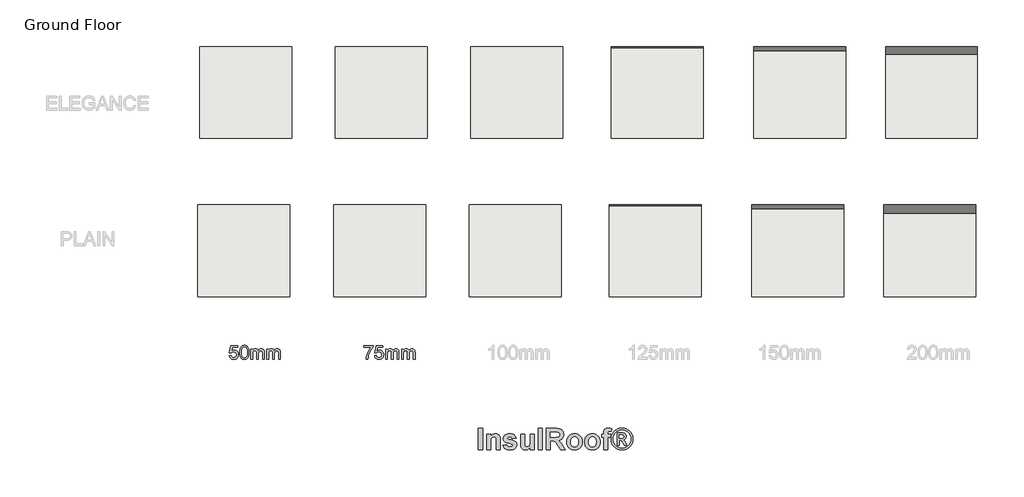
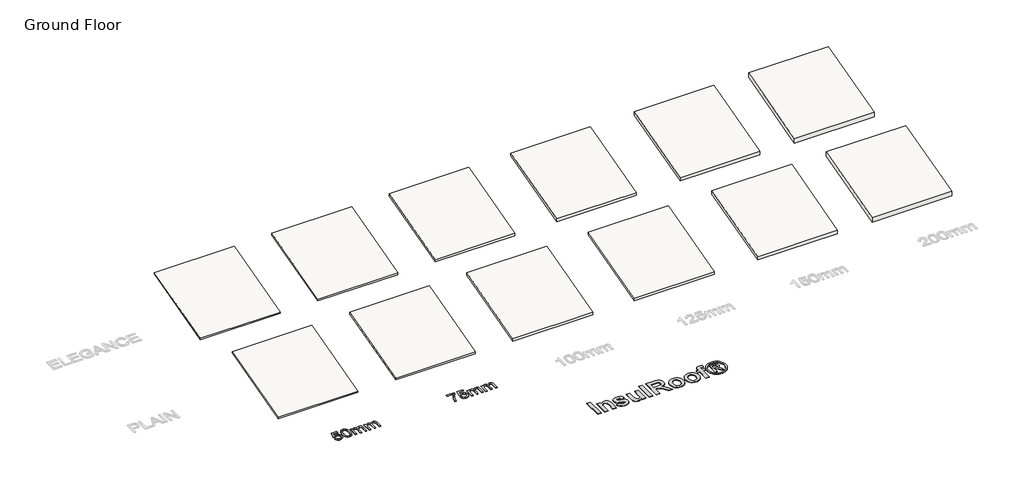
# One storey, part 1 of 2: 12 roofs, 3 proxies.
"""IFC4 building model written with IfcOpenShell, lengths in millimetres."""

from ifc_helpers import new_model, si_unit, frame, origin, origin_with_axes, place, context, project, spatial, polyline, outline, extrude, element, save

model = new_model("IFC4")

# Units and contexts
model_context = context("Model", 3, world=origin())
ifc_project = project(units=[si_unit("LENGTHUNIT", "METRE", prefix="MILLI")], contexts=[model_context])

# Site, building, storey
site = spatial("IfcSite", under=ifc_project)
building = spatial("IfcBuilding", under=site)
storey = spatial("IfcBuildingStorey", under=building, Name="Ground Floor", Elevation=0.0)

# Proxies
placement = place(None, origin())
element("IfcBuildingElementProxy", 1, Name="600mm Arial", ObjectType="600mm Arial", at=placement, inside=storey, context=model_context, shape_type="SweptSolid", body=[
    extrude(outline(polyline([(-8104.9680038, -2325.4851257), (-8029.6257712, -2316.0673466), (-8023.9971767, -2340.2877775), (-8015.7934082, -2361.2984379), (-8005.0144657, -2379.099328), (-7991.6603493, -2393.6904476), (-7975.7586501, -2405.0534027), (-7957.3369592, -2413.1697993), (-7936.3952766, -2418.0396372), (-7912.9336023, -2419.6629165), (-7884.2388067, -2417.4050407), (-7858.9285255, -2410.6314135), (-7837.0027585, -2399.3420348), (-7818.461506, -2383.5369045), (-7803.718635, -2363.9977721), (-7793.1880129, -2341.5063866), (-7786.8696396, -2316.0627481), (-7784.7635152, -2287.6668566), (-7786.7362824, -2260.8298651), (-7792.654584, -2236.9727177), (-7802.51842, -2216.0954144), (-7816.3277904, -2198.1979554), (-7834.1286805, -2183.8413605), (-7855.9670754, -2173.5866499), (-7881.8429752, -2167.4338235), (-7911.75638, -2165.3828814), (-7948.3054562, -2168.6570312), (-7977.9015627, -2178.4794804), (-8001.5379809, -2193.525854), (-8020.2079921, -2212.4717768), (-8095.5502248, -2203.0539977), (-8029.6257712, -1892.2672882), (-7737.6746198, -1892.2672882), (-7737.6746198, -1967.6095208), (-7968.7045128, -1967.6095208), (-8000.9309756, -2133.597877), (-7974.3423044, -2114.5415897), (-7947.1098397, -2100.9299559), (-7919.2335815, -2092.7629756), (-7890.7135298, -2090.0406488), (-7854.0218993, -2093.4159661), (-7820.3193101, -2103.541918), (-7789.605762, -2120.4185045), (-7761.8812551, -2144.0457257), (-7738.9300172, -2172.9796446), (-7722.5362757, -2205.7763245), (-7712.7000309, -2242.4357653), (-7709.4212826, -2282.9579671), (-7712.3735356, -2321.9902468), (-7721.2302947, -2358.3001997), (-7735.9915597, -2391.8878258), (-7756.6573308, -2422.7531252), (-7787.9640886, -2454.3633857), (-7824.4947707, -2476.9421431), (-7866.2493772, -2490.4893976), (-7913.2279079, -2495.0051491), (-7952.1084363, -2492.1034798), (-7987.2273713, -2483.3984721), (-8018.5847128, -2468.890126), (-8046.180461, -2448.5784413), (-8069.140896, -2423.4750936), (-8086.5922982, -2394.5917585), (-8098.5346674, -2361.9284359), (-8104.9680038, -2325.4851257)])), origin_with_axes(), (0.0, 0.0, 1.0), 20.0),
    extrude(outline(polyline([(-7643.4968291, -2189.0744819), (-7637.9602051, -2092.5974287), (-7631.039425, -2051.6843523), (-7621.350333, -2015.6549094), (-7608.9343156, -1984.2147944), (-7593.8327597, -1957.0697016), (-7576.0456653, -1934.2196312), (-7555.5730322, -1915.6645831), (-7532.3458828, -1901.3079882), (-7506.295239, -1891.0532776), (-7477.4211009, -1884.9004512), (-7445.7234685, -1882.8495091), (-7399.2967607, -1887.7055514), (-7357.7260952, -1902.2736785), (-7322.9612467, -1925.983673), (-7296.9519896, -1958.2653181), (-7277.3070911, -1998.8427022), (-7261.6353181, -2047.4399138), (-7251.3714104, -2109.1521184), (-7247.9501079, -2189.0744819), (-7253.4315496, -2284.9997121), (-7260.2833518, -2325.7748328), (-7269.8758748, -2361.7582904), (-7282.1953231, -2393.212201), (-7297.2279011, -2420.3986805), (-7314.9736089, -2443.3177288), (-7335.4324463, -2461.9693459), (-7358.6871869, -2476.4225098), (-7384.8206042, -2486.7461983), (-7413.832698, -2492.9404114), (-7445.7234685, -2495.0051491), (-7487.2205575, -2491.4182996), (-7524.008757, -2480.6577513), (-7556.088067, -2462.723504), (-7583.4584875, -2437.6155578), (-7609.7252619, -2392.2281167), (-7628.4872437, -2335.675457), (-7639.7444327, -2267.9575787), (-7643.4968291, -2189.0744819)]), holes=[polyline([(-7568.1545965, -2188.9273291), (-7565.9473045, -2254.4241198), (-7559.3254286, -2307.4405138), (-7548.2889687, -2347.9765112), (-7532.8379249, -2376.0321118), (-7514.1495196, -2395.1205889), (-7493.400975, -2408.7552153), (-7470.5922913, -2416.9359912), (-7445.7234685, -2419.6629165), (-7420.8546456, -2416.9267941), (-7398.0459619, -2408.7184271), (-7377.2974174, -2395.0378154), (-7358.609012, -2375.884959), (-7343.1579682, -2347.7833731), (-7332.1215084, -2307.2565728), (-7325.4996324, -2254.3045582), (-7323.2923405, -2188.9273291), (-7325.426056, -2125.1641823), (-7331.8272028, -2073.0812888), (-7342.4957806, -2032.6786487), (-7357.4317896, -2003.9562619), (-7375.8074953, -1983.9342843), (-7396.7951631, -1969.6328718), (-7420.3947931, -1961.0520242), (-7446.6063853, -1958.1917417), (-7471.3464494, -1960.7117334), (-7493.768857, -1968.2717084), (-7513.8736081, -1980.8716667), (-7531.6607025, -1998.5116084), (-7547.6267811, -2029.781578), (-7559.031123, -2071.9408546), (-7565.8737281, -2124.9894383), (-7568.1545965, -2188.9273291)])]), origin_with_axes(), (0.0, 0.0, 1.0), 20.0),
    extrude(outline(polyline([(-7163.1900962, -2485.58737), (-7163.1900962, -2042.9517534), (-7087.8478636, -2042.9517534), (-7087.8478636, -2115.7923885), (-7065.1863327, -2082.333521), (-7036.0500786, -2056.1219288), (-7001.4323829, -2039.180963), (-6962.3265268, -2033.5339743), (-6920.4247676, -2039.2913276), (-6902.5916878, -2046.4880191), (-6886.8371414, -2056.5633872), (-6861.7475893, -2084.2097192), (-6845.3400523, -2121.0898892), (-6817.8776614, -2082.7841764), (-6786.5525095, -2055.422953), (-6751.3645967, -2039.006219), (-6712.3139229, -2033.5339743), (-6682.1521978, -2035.8102442), (-6655.6784897, -2042.6390537), (-6632.8927987, -2054.0204029), (-6613.7951246, -2069.9542919), (-6598.6981672, -2090.6246615), (-6587.9146262, -2116.2154528), (-6581.4445016, -2146.7266657), (-6579.2877934, -2182.1583004), (-6579.2877934, -2485.58737), (-6654.630026, -2485.58737), (-6654.630026, -2214.531916), (-6656.3774655, -2176.9527702), (-6661.619784, -2151.6240948), (-6671.4422332, -2134.2784587), (-6686.9300652, -2120.6484308), (-6706.8508753, -2111.8192629), (-6729.9722587, -2108.8762069), (-6751.32321, -2110.7616022), (-6770.788766, -2116.4177879), (-6788.3689269, -2125.844764), (-6804.0636925, -2139.0425306), (-6816.971752, -2156.3973637), (-6826.1917945, -2178.2955394), (-6831.72382, -2204.7370578), (-6833.5678285, -2235.7219189), (-6833.5678285, -2485.58737), (-6908.9100611, -2485.58737), (-6908.9100611, -2206.1442065), (-6913.2694628, -2163.5434714), (-6918.7187148, -2146.8232348), (-6926.3476677, -2133.1564186), (-6936.459824, -2122.533826), (-6949.3586865, -2114.9462599), (-6965.044255, -2110.3937202), (-6983.5165297, -2108.8762069), (-7012.5424192, -2112.9229089), (-7039.2874402, -2125.0630147), (-7061.3603599, -2145.0022189), (-7076.3699453, -2172.4462157), (-7084.978384, -2210.5220022), (-7087.8478636, -2262.3565753), (-7087.8478636, -2485.58737), (-7163.1900962, -2485.58737)])), origin_with_axes(), (0.0, 0.0, 1.0), 20.0),
    extrude(outline(polyline([(-6466.2744445, -2485.58737), (-6466.2744445, -2042.9517534), (-6390.9322119, -2042.9517534), (-6390.9322119, -2115.7923885), (-6368.270681, -2082.333521), (-6339.134427, -2056.1219288), (-6304.5167312, -2039.180963), (-6265.4108751, -2033.5339743), (-6223.5091159, -2039.2913276), (-6205.6760362, -2046.4880191), (-6189.9214897, -2056.5633872), (-6164.8319377, -2084.2097192), (-6148.4244007, -2121.0898892), (-6120.9620097, -2082.7841764), (-6089.6368579, -2055.422953), (-6054.448945, -2039.006219), (-6015.3982712, -2033.5339743), (-5985.2365461, -2035.8102442), (-5958.7628381, -2042.6390537), (-5935.977147, -2054.0204029), (-5916.8794729, -2069.9542919), (-5901.7825155, -2090.6246615), (-5890.9989746, -2116.2154528), (-5884.52885, -2146.7266657), (-5882.3721418, -2182.1583004), (-5882.3721418, -2485.58737), (-5957.7143744, -2485.58737), (-5957.7143744, -2214.531916), (-5959.4618139, -2176.9527702), (-5964.7041323, -2151.6240948), (-5974.5265816, -2134.2784587), (-5990.0144136, -2120.6484308), (-6009.9352236, -2111.8192629), (-6033.056607, -2108.8762069), (-6054.4075583, -2110.7616022), (-6073.8731144, -2116.4177879), (-6091.4532752, -2125.844764), (-6107.1480408, -2139.0425306), (-6120.0561003, -2156.3973637), (-6129.2761428, -2178.2955394), (-6134.8081683, -2204.7370578), (-6136.6521768, -2235.7219189), (-6136.6521768, -2485.58737), (-6211.9944094, -2485.58737), (-6211.9944094, -2206.1442065), (-6216.3538111, -2163.5434714), (-6221.8030631, -2146.8232348), (-6229.432016, -2133.1564186), (-6239.5441724, -2122.533826), (-6252.4430348, -2114.9462599), (-6268.1286034, -2110.3937202), (-6286.6008781, -2108.8762069), (-6315.6267675, -2112.9229089), (-6342.3717885, -2125.0630147), (-6364.4447082, -2145.0022189), (-6379.4542937, -2172.4462157), (-6388.0627323, -2210.5220022), (-6390.9322119, -2262.3565753), (-6390.9322119, -2485.58737), (-6466.2744445, -2485.58737)])), origin_with_axes(), (0.0, 0.0, 1.0), 20.0),
])
element("IfcBuildingElementProxy", 2, Name="600mm Arial", ObjectType="600mm Arial", at=placement, inside=storey, context=model_context, shape_type="SweptSolid", body=[
    extrude(outline(polyline([(-2245.6761452, -1967.6095208), (-2245.6761452, -1892.2672882), (-1850.129424, -1892.2672882), (-1850.129424, -1953.1885466), (-1906.5073397, -2024.5392596), (-1962.3334325, -2115.2773537), (-2011.5744375, -2217.125484), (-2031.4630579, -2269.1118085), (-2048.1970902, -2321.8063058), (-2066.1497315, -2400.1283825), (-2076.1561218, -2485.58737), (-2151.4983544, -2485.58737), (-2143.3497682, -2407.9274808), (-2121.55276, -2315.6258882), (-2105.6832504, -2266.260723), (-2086.695941, -2217.7876716), (-2064.5908316, -2170.2067341), (-2039.3679223, -2123.5179104), (-1984.1120466, -2038.2980462), (-1925.4716566, -1967.6095208), (-2245.6761452, -1967.6095208)])), origin_with_axes(), (0.0, 0.0, 1.0), 20.0),
    extrude(outline(polyline([(-1784.2049704, -2325.4851257), (-1708.8627378, -2316.0673466), (-1703.2341433, -2340.2877775), (-1695.0303748, -2361.2984379), (-1684.2514323, -2379.099328), (-1670.8973159, -2393.6904476), (-1654.9956167, -2405.0534027), (-1636.5739258, -2413.1697993), (-1615.6322432, -2418.0396372), (-1592.1705689, -2419.6629165), (-1563.4757733, -2417.4050407), (-1538.165492, -2410.6314135), (-1516.2397251, -2399.3420348), (-1497.6984726, -2383.5369045), (-1482.9556016, -2363.9977721), (-1472.4249795, -2341.5063866), (-1466.1066062, -2316.0627481), (-1464.0004818, -2287.6668566), (-1465.973249, -2260.8298651), (-1471.8915506, -2236.9727177), (-1481.7553866, -2216.0954144), (-1495.564757, -2198.1979554), (-1513.365647, -2183.8413605), (-1535.204042, -2173.5866499), (-1561.0799418, -2167.4338235), (-1590.9933466, -2165.3828814), (-1627.5424228, -2168.6570312), (-1657.1385293, -2178.4794804), (-1680.7749475, -2193.525854), (-1699.4449587, -2212.4717768), (-1774.7871913, -2203.0539977), (-1708.8627378, -1892.2672882), (-1416.9115864, -1892.2672882), (-1416.9115864, -1967.6095208), (-1647.9414794, -1967.6095208), (-1680.1679422, -2133.597877), (-1653.579271, -2114.5415897), (-1626.3468063, -2100.9299559), (-1598.4705481, -2092.7629756), (-1569.9504964, -2090.0406488), (-1533.2588659, -2093.4159661), (-1499.5562767, -2103.541918), (-1468.8427286, -2120.4185045), (-1441.1182217, -2144.0457257), (-1418.1669837, -2172.9796446), (-1401.7732423, -2205.7763245), (-1391.9369975, -2242.4357653), (-1388.6582492, -2282.9579671), (-1391.6105022, -2321.9902468), (-1400.4672612, -2358.3001997), (-1415.2285263, -2391.8878258), (-1435.8942974, -2422.7531252), (-1467.2010552, -2454.3633857), (-1503.7317373, -2476.9421431), (-1545.4863437, -2490.4893976), (-1592.4648745, -2495.0051491), (-1631.3454029, -2492.1034798), (-1666.4643379, -2483.3984721), (-1697.8216794, -2468.890126), (-1725.4174276, -2448.5784413), (-1748.3778626, -2423.4750936), (-1765.8292648, -2394.5917585), (-1777.771634, -2361.9284359), (-1784.2049704, -2325.4851257)])), origin_with_axes(), (0.0, 0.0, 1.0), 20.0),
    extrude(outline(polyline([(-1303.8982375, -2485.58737), (-1303.8982375, -2042.9517534), (-1228.5560049, -2042.9517534), (-1228.5560049, -2115.7923885), (-1205.894474, -2082.333521), (-1176.75822, -2056.1219288), (-1142.1405242, -2039.180963), (-1103.0346681, -2033.5339743), (-1061.1329089, -2039.2913276), (-1043.2998292, -2046.4880191), (-1027.5452827, -2056.5633872), (-1002.4557307, -2084.2097192), (-986.0481937, -2121.0898892), (-958.5858027, -2082.7841764), (-927.2606509, -2055.422953), (-892.072738, -2039.006219), (-853.0220642, -2033.5339743), (-822.8603391, -2035.8102442), (-796.3866311, -2042.6390537), (-773.60094, -2054.0204029), (-754.5032659, -2069.9542919), (-739.4063085, -2090.6246615), (-728.6227676, -2116.2154528), (-722.152643, -2146.7266657), (-719.9959348, -2182.1583004), (-719.9959348, -2485.58737), (-795.3381674, -2485.58737), (-795.3381674, -2214.531916), (-797.0856069, -2176.9527702), (-802.3279253, -2151.6240948), (-812.1503746, -2134.2784587), (-827.6382066, -2120.6484308), (-847.5590166, -2111.8192629), (-870.6804, -2108.8762069), (-892.0313513, -2110.7616022), (-911.4969074, -2116.4177879), (-929.0770682, -2125.844764), (-944.7718338, -2139.0425306), (-957.6798933, -2156.3973637), (-966.8999358, -2178.2955394), (-972.4319613, -2204.7370578), (-974.2759698, -2235.7219189), (-974.2759698, -2485.58737), (-1049.6182024, -2485.58737), (-1049.6182024, -2206.1442065), (-1053.9776041, -2163.5434714), (-1059.4268561, -2146.8232348), (-1067.055809, -2133.1564186), (-1077.1679654, -2122.533826), (-1090.0668278, -2114.9462599), (-1105.7523964, -2110.3937202), (-1124.2246711, -2108.8762069), (-1153.2505605, -2112.9229089), (-1179.9955815, -2125.0630147), (-1202.0685013, -2145.0022189), (-1217.0780867, -2172.4462157), (-1225.6865253, -2210.5220022), (-1228.5560049, -2262.3565753), (-1228.5560049, -2485.58737), (-1303.8982375, -2485.58737)])), origin_with_axes(), (0.0, 0.0, 1.0), 20.0),
    extrude(outline(polyline([(-606.9825859, -2485.58737), (-606.9825859, -2042.9517534), (-531.6403532, -2042.9517534), (-531.6403532, -2115.7923885), (-508.9788223, -2082.333521), (-479.8425683, -2056.1219288), (-445.2248726, -2039.180963), (-406.1190165, -2033.5339743), (-364.2172572, -2039.2913276), (-346.3841775, -2046.4880191), (-330.6296311, -2056.5633872), (-305.540079, -2084.2097192), (-289.132542, -2121.0898892), (-261.6701511, -2082.7841764), (-230.3449992, -2055.422953), (-195.1570864, -2039.006219), (-156.1064126, -2033.5339743), (-125.9446875, -2035.8102442), (-99.4709794, -2042.6390537), (-76.6852883, -2054.0204029), (-57.5876143, -2069.9542919), (-42.4906569, -2090.6246615), (-31.7071159, -2116.2154528), (-25.2369913, -2146.7266657), (-23.0802831, -2182.1583004), (-23.0802831, -2485.58737), (-98.4225157, -2485.58737), (-98.4225157, -2214.531916), (-100.1699552, -2176.9527702), (-105.4122736, -2151.6240948), (-115.2347229, -2134.2784587), (-130.7225549, -2120.6484308), (-150.6433649, -2111.8192629), (-173.7647483, -2108.8762069), (-195.1156996, -2110.7616022), (-214.5812557, -2116.4177879), (-232.1614165, -2125.844764), (-247.8561822, -2139.0425306), (-260.7642417, -2156.3973637), (-269.9842842, -2178.2955394), (-275.5163097, -2204.7370578), (-277.3603182, -2235.7219189), (-277.3603182, -2485.58737), (-352.7025508, -2485.58737), (-352.7025508, -2206.1442065), (-357.0619524, -2163.5434714), (-362.5112045, -2146.8232348), (-370.1401574, -2133.1564186), (-380.2523137, -2122.533826), (-393.1511762, -2114.9462599), (-408.8367447, -2110.3937202), (-427.3090194, -2108.8762069), (-456.3349088, -2112.9229089), (-483.0799299, -2125.0630147), (-505.1528496, -2145.0022189), (-520.162435, -2172.4462157), (-528.7708737, -2210.5220022), (-531.6403532, -2262.3565753), (-531.6403532, -2485.58737), (-606.9825859, -2485.58737)])), origin_with_axes(), (0.0, 0.0, 1.0), 20.0),
])
element("IfcBuildingElementProxy", 3, Name="900mm Arial", ObjectType="900mm Arial", at=placement, inside=storey, context=model_context, shape_type="SweptSolid", body=[
    extrude(outline(polyline([(2738.3193538, -6419.7488861), (2738.3193538, -5497.7851027), (2913.931503, -5497.7851027), (2913.931503, -6419.7488861), (2738.3193538, -6419.7488861)])), origin_with_axes(), (0.0, 0.0, 1.0), 20.0),
    extrude(outline(polyline([(3689.5518287, -6419.7488861), (3513.9396795, -6419.7488861), (3513.9396795, -6073.7838057), (3511.1957396, -5983.2337913), (3502.9639201, -5931.5562578), (3488.5010706, -5902.9163858), (3467.0640407, -5881.4793558), (3439.6818078, -5868.1026492), (3407.3833493, -5863.6437469), (3385.5533072, -5865.2372328), (3364.8808647, -5870.0176905), (3345.3660217, -5877.98512), (3327.0087784, -5889.1395212), (3310.6308876, -5902.9306771), (3297.0541019, -5918.8083706), (3286.2784216, -5936.7726017), (3278.3038464, -5956.8233704), (3268.4428127, -6016.8756369), (3265.1558014, -6112.6562867), (3265.1558014, -6419.7488861), (3089.5436522, -6419.7488861), (3089.5436522, -5746.5689808), (3265.1558014, -5746.5689808), (3265.1558014, -5843.5215215), (3286.6964436, -5817.368345), (3309.5876188, -5794.7022587), (3333.8293268, -5775.5232626), (3359.4215677, -5759.8313567), (3386.3643415, -5747.6265409), (3414.6576482, -5738.9088154), (3444.3014877, -5733.6781801), (3475.2958602, -5731.934635), (3528.6883561, -5737.2510185), (3577.2789572, -5753.2001687), (3617.8664006, -5777.3811385), (3647.2494229, -5807.3929804), (3667.4002311, -5842.5211268), (3680.2910317, -5882.05101), (3687.2366294, -5932.8424796), (3689.5518287, -6001.7553851), (3689.5518287, -6419.7488861)])), origin_with_axes(), (0.0, 0.0, 1.0), 20.0),
    extrude(outline(polyline([(3791.9922491, -6229.5023911), (3967.6043983, -6200.2336996), (3974.5285589, -6223.871598), (3984.3252816, -6244.4797294), (3996.9945663, -6262.0580939), (4012.536413, -6276.6066916), (4031.1937747, -6288.0111915), (4053.2096045, -6296.1572629), (4078.5839022, -6301.0449057), (4107.316668, -6302.67412), (4138.7433539, -6301.1163625), (4166.0255473, -6296.44309), (4189.1632483, -6288.6543024), (4208.1564568, -6277.7499999), (4225.3060808, -6257.3991128), (4231.0226221, -6231.1030227), (4227.9928552, -6212.9244213), (4218.9035545, -6198.1757447), (4198.1525095, -6186.1138426), (4161.5094797, -6175.0809178), (4067.2008393, -6152.1290044), (3991.8996989, -6130.1489031), (3935.6060583, -6109.1406137), (3898.3199175, -6089.1041364), (3864.6066151, -6059.2494994), (3840.5256848, -6024.1070617), (3826.0771267, -5983.6768232), (3821.2609406, -5937.958784), (3825.3911417, -5896.127993), (3837.781745, -5857.7557094), (3858.4327505, -5822.8419333), (3887.3441582, -5791.3866647), (3924.9447087, -5765.3764017), (3971.6631426, -5746.7976425), (4027.4994599, -5735.6503869), (4092.4536606, -5731.934635), (4154.2923463, -5734.9358192), (4207.6419681, -5743.9393718), (4252.5025261, -5758.9452927), (4288.8740202, -5779.9535821), (4318.4999956, -5806.849909), (4343.1239973, -5839.5199426), (4362.7460254, -5877.9636829), (4377.3660798, -5922.18113), (4201.7539306, -5951.4498216), (4188.8345472, -5913.8921451), (4167.912006, -5886.2812506), (4154.1351414, -5876.3773427), (4137.7286678, -5869.3031228), (4097.0268937, -5863.6437469), (4047.0071571, -5868.4456416), (4028.2140276, -5874.44801), (4013.5653905, -5882.8513258), (4001.046165, -5898.6289798), (3996.8730898, -5918.5225436), (4001.046165, -5935.7293329), (4013.5653905, -5950.3065133), (4031.6796807, -5959.8960113), (4063.6137097, -5971.2862199), (4168.9409834, -5999.4687686), (4230.4009482, -6016.2896914), (4281.8140917, -6034.9684902), (4323.1804138, -6055.5051649), (4354.4999145, -6077.8997155), (4377.3089144, -6103.8956871), (4393.6010571, -6134.5506399), (4403.3763428, -6169.8645739), (4406.6347713, -6209.837489), (4401.9114791, -6254.2907434), (4387.7416023, -6295.4998606), (4364.125141, -6333.4648406), (4331.0620951, -6368.1856835), (4288.7382524, -6397.1471109), (4237.3394003, -6417.8338448), (4176.8655388, -6430.2458851), (4107.316668, -6434.3832319), (4043.5986694, -6430.9390158), (3986.8977252, -6420.6063673), (3937.2138355, -6403.3852866), (3894.5470003, -6379.2757736), (3858.7685973, -6349.2496404), (3829.7500044, -6314.2786989), (3807.4912217, -6274.3629491), (3791.9922491, -6229.5023911)])), origin_with_axes(), (0.0, 0.0, 1.0), 20.0),
    extrude(outline(polyline([(4992.008602, -6419.7488861), (4992.008602, -6320.9670522), (4973.1511614, -6345.9697748), (4951.5640722, -6368.1571008), (4927.2473346, -6387.5290301), (4900.2009485, -6404.0855629), (4871.3824346, -6417.3407931), (4841.7493136, -6426.8088147), (4811.3015854, -6432.4896276), (4780.0392501, -6434.3832319), (4748.726895, -6432.525356), (4719.0437542, -6426.9517282), (4690.9898277, -6417.6623486), (4664.5651155, -6404.6572171), (4640.7271382, -6388.2864719), (4620.4334165, -6368.9002511), (4603.6839505, -6346.4985548), (4590.47874, -6321.081383), (4580.4747927, -6291.5768842), (4573.3291161, -6256.9132068), (4569.0417101, -6217.0903508), (4567.6125748, -6172.1083163), (4567.6125748, -5746.5689808), (4743.224724, -5746.5689808), (4743.224724, -6057.77749), (4745.5970886, -6172.9943802), (4752.7141826, -6232.8179851), (4766.1480547, -6261.6293533), (4787.4707538, -6283.8095336), (4816.1392085, -6297.9579734), (4851.6103473, -6302.67412), (4873.2117278, -6301.1020711), (4893.6555087, -6296.3859245), (4912.94169, -6288.5256802), (4931.0702716, -6277.5213382), (4960.6247902, -6249.3102068), (4979.0892187, -6214.9823762), (4984.7414489, -6189.5366217), (4988.7787562, -6150.5855383), (4992.008602, -6032.1673849), (4992.008602, -5746.5689808), (5167.6207513, -5746.5689808), (5167.6207513, -6419.7488861), (4992.008602, -6419.7488861)])), origin_with_axes(), (0.0, 0.0, 1.0), 20.0),
    extrude(outline(polyline([(5343.2329005, -6419.7488861), (5343.2329005, -5497.7851027), (5518.8450497, -5497.7851027), (5518.8450497, -6419.7488861), (5343.2329005, -6419.7488861)])), origin_with_axes(), (0.0, 0.0, 1.0), 20.0),
    extrude(outline(polyline([(5694.4571989, -6419.7488861), (5694.4571989, -5497.7851027), (6082.2673618, -5497.7851027), (6150.437117, -5499.3428602), (6208.6029248, -5504.0161328), (6256.7647854, -5511.8049203), (6294.9226987, -5522.7092229), (6326.4208414, -5537.600813), (6354.60339, -5557.3514633), (6379.4703448, -5581.9611736), (6401.0217055, -5611.4299441), (6418.4285738, -5644.4858443), (6430.8620512, -5679.8569436), (6438.3221376, -5717.5432423), (6440.8088331, -5757.5447401), (6437.2145577, -5807.4072718), (6426.4317317, -5852.725153), (6408.4603549, -5893.498384), (6383.3004275, -5929.7269646), (6350.980532, -5960.5391222), (6311.5292512, -5985.0630845), (6264.9465852, -6003.2988513), (6211.2325339, -6015.2464226), (6262.166917, -6051.9466179), (6303.3831799, -6092.0767379), (6346.0285781, -6150.2139631), (6401.2503672, -6240.9354738), (6513.9805619, -6419.7488861), (6308.8710595, -6419.7488861), (6175.3326544, -6209.1515041), (6110.8214856, -6128.2910272), (6070.4912867, -6084.1879109), (6041.3940914, -6062.4936366), (6010.5819337, -6048.8596856), (5969.6800806, -6041.6568435), (5910.313799, -6039.2558962), (5870.0693481, -6039.2558962), (5870.0693481, -6419.7488861), (5694.4571989, -6419.7488861)]), holes=[polyline([(5870.0693481, -5878.2780927), (6014.8121742, -5878.2780927), (6129.0572524, -5875.619901), (6190.5386543, -5867.6453259), (6221.8081353, -5853.1824763), (6245.4174509, -5831.0594614), (6260.2518756, -5801.876518), (6265.1966839, -5766.2338829), (6263.5674696, -5745.4471096), (6258.6798268, -5726.7611651), (6250.5337554, -5710.1760496), (6239.1292555, -5695.6917631), (6224.7521541, -5683.4940931), (6207.6882782, -5673.7688271), (6165.5002033, -5661.7355077), (6022.8153321, -5658.7629062), (5870.0693481, -5658.7629062), (5870.0693481, -5878.2780927)])]), origin_with_axes(), (0.0, 0.0, 1.0), 20.0),
    extrude(outline(polyline([(6572.517945, -6073.5551441), (6575.2261565, -6029.6592524), (6583.3507908, -5986.4636371), (6596.891848, -5943.9682981), (6615.8493282, -5902.1732354), (6639.7659079, -5863.179278), (6668.1842639, -5829.0872547), (6701.1043962, -5799.8971656), (6738.5263048, -5775.6090107), (6779.3567012, -5756.5014713), (6822.5022967, -5742.8532289), (6867.9630915, -5734.6642835), (6915.7390856, -5731.934635), (6952.7268943, -5733.481674), (6988.0033135, -5738.122791), (7021.5683431, -5745.857986), (7053.4219832, -5756.6872589), (7083.5642337, -5770.6106099), (7111.9950946, -5787.6280388), (7138.714566, -5807.7395457), (7163.7226479, -5830.9451306), (7186.3655107, -5856.5159345), (7205.9893252, -5883.7230983), (7222.5940913, -5912.5666221), (7236.179809, -5943.0465058), (7246.7464784, -5975.1627495), (7254.2940993, -6008.9153531), (7260.3321961, -6081.3296402), (7258.8065941, -6118.6425773), (7254.2297882, -6154.3227272), (7246.6017784, -6188.37009), (7235.9225647, -6220.7846656), (7222.192147, -6251.5664542), (7205.4105254, -6280.7154557), (7185.5776999, -6308.23167), (7162.6936704, -6334.1150972), (7137.4980146, -6357.6154413), (7110.7303099, -6377.9824061), (7082.3905563, -6395.2159918), (7052.4787539, -6409.3161982), (7020.9949026, -6420.2830255), (6987.9390024, -6428.1164735), (6953.3110534, -6432.8165423), (6917.1110555, -6434.3832319), (6871.8003199, -6431.7750599), (6827.5614358, -6423.950544), (6784.3944032, -6410.9096841), (6742.2992221, -6392.6524803), (6703.2266622, -6369.3504288), (6669.1274932, -6341.1750257), (6640.0017152, -6308.1262713), (6615.8493282, -6270.2041653), (6596.891848, -6227.6445152), (6583.3507908, -6180.6831283), (6575.2261565, -6129.3200046), (6572.517945, -6073.5551441)]), holes=[polyline([(6748.1300942, -6083.1589335), (6751.1670068, -6133.2143984), (6760.2777445, -6177.0531246), (6775.4623074, -6214.6751121), (6796.7206954, -6246.080361), (6822.4379856, -6270.8401305), (6850.9992552, -6288.5256802), (6882.404504, -6299.13701), (6916.6537322, -6302.67412), (6950.888669, -6299.13701), (6982.2510438, -6288.5256802), (7010.7408566, -6270.8401305), (7036.3581074, -6246.080361), (7057.5164559, -6214.589364), (7072.629562, -6176.7101321), (7081.6974257, -6132.4426653), (7084.7200469, -6081.7869636), (7081.6974257, -6032.3317355), (7072.629562, -5988.9217499), (7057.5164559, -5951.5570067), (7036.3581074, -5920.237506), (7010.7408566, -5895.4777364), (6982.2510438, -5877.7921867), (6950.888669, -5867.1808569), (6916.6537322, -5863.6437469), (6882.404504, -5867.1808569), (6850.9992552, -5877.7921867), (6822.4379856, -5895.4777364), (6796.7206954, -5920.237506), (6775.4623074, -5951.6427548), (6760.2777445, -5989.2647424), (6751.1670068, -6033.1034686), (6748.1300942, -6083.1589335)])]), origin_with_axes(), (0.0, 0.0, 1.0), 20.0),
    extrude(outline(polyline([(7348.1382707, -6073.5551441), (7350.8464822, -6029.6592524), (7358.9711165, -5986.4636371), (7372.5121737, -5943.9682981), (7391.4696539, -5902.1732354), (7415.3862336, -5863.179278), (7443.8045896, -5829.0872547), (7476.7247219, -5799.8971656), (7514.1466305, -5775.6090107), (7554.9770269, -5756.5014713), (7598.1226224, -5742.8532289), (7643.5834173, -5734.6642835), (7691.3594113, -5731.934635), (7728.34722, -5733.481674), (7763.6236392, -5738.122791), (7797.1886688, -5745.857986), (7829.0423089, -5756.6872589), (7859.1845594, -5770.6106099), (7887.6154203, -5787.6280388), (7914.3348917, -5807.7395457), (7939.3429736, -5830.9451306), (7961.9858364, -5856.5159345), (7981.6096509, -5883.7230983), (7998.214417, -5912.5666221), (8011.8001348, -5943.0465058), (8022.3668041, -5975.1627495), (8029.9144251, -6008.9153531), (8035.9525218, -6081.3296402), (8034.4269199, -6118.6425773), (8029.850114, -6154.3227272), (8022.2221041, -6188.37009), (8011.5428904, -6220.7846656), (7997.8124727, -6251.5664542), (7981.0308511, -6280.7154557), (7961.1980256, -6308.23167), (7938.3139961, -6334.1150972), (7913.1183403, -6357.6154413), (7886.3506356, -6377.9824061), (7858.010882, -6395.2159918), (7828.0990796, -6409.3161982), (7796.6152283, -6420.2830255), (7763.5593281, -6428.1164735), (7728.9313791, -6432.8165423), (7692.7313812, -6434.3832319), (7647.4206456, -6431.7750599), (7603.1817615, -6423.950544), (7560.0147289, -6410.9096841), (7517.9195478, -6392.6524803), (7478.8469879, -6369.3504288), (7444.7478189, -6341.1750257), (7415.6220409, -6308.1262713), (7391.4696539, -6270.2041653), (7372.5121737, -6227.6445152), (7358.9711165, -6180.6831283), (7350.8464822, -6129.3200046), (7348.1382707, -6073.5551441)]), holes=[polyline([(7523.7504199, -6083.1589335), (7526.7873325, -6133.2143984), (7535.8980702, -6177.0531246), (7551.0826331, -6214.6751121), (7572.3410211, -6246.080361), (7598.0583114, -6270.8401305), (7626.6195809, -6288.5256802), (7658.0248298, -6299.13701), (7692.2740579, -6302.67412), (7726.5089947, -6299.13701), (7757.8713695, -6288.5256802), (7786.3611823, -6270.8401305), (7811.9784331, -6246.080361), (7833.1367816, -6214.589364), (7848.2498877, -6176.7101321), (7857.3177514, -6132.4426653), (7860.3403726, -6081.7869636), (7857.3177514, -6032.3317355), (7848.2498877, -5988.9217499), (7833.1367816, -5951.5570067), (7811.9784331, -5920.237506), (7786.3611823, -5895.4777364), (7757.8713695, -5877.7921867), (7726.5089947, -5867.1808569), (7692.2740579, -5863.6437469), (7658.0248298, -5867.1808569), (7626.6195809, -5877.7921867), (7598.0583114, -5895.4777364), (7572.3410211, -5920.237506), (7551.0826331, -5951.6427548), (7535.8980702, -5989.2647424), (7526.7873325, -6033.1034686), (7523.7504199, -6083.1589335)])]), origin_with_axes(), (0.0, 0.0, 1.0), 20.0),
    extrude(outline(polyline([(8094.4899049, -5746.5689808), (8182.2959795, -5746.5689808), (8182.2959795, -5697.4067255), (8186.7548817, -5625.5498011), (8192.3285095, -5597.4672919), (8200.1315884, -5574.615418), (8210.9215601, -5555.3149454), (8225.4558664, -5537.8866401), (8243.7345073, -5522.330502), (8265.7574827, -5508.6465312), (8291.2389656, -5497.49213), (8319.893129, -5489.5247005), (8351.7199727, -5484.7442429), (8386.7194969, -5483.150757), (8460.9202032, -5488.6386366), (8533.5202779, -5505.1022756), (8511.5687593, -5624.6923199), (8470.0095039, -5617.3179817), (8429.9365493, -5614.8598689), (8396.9235232, -5619.2616057), (8384.4686088, -5624.7637767), (8374.7147602, -5632.4668161), (8367.3618589, -5643.2996619), (8362.1097866, -5658.1912521), (8357.9081287, -5700.1506653), (8357.9081287, -5746.5689808), (8489.6172406, -5746.5689808), (8489.6172406, -5878.2780927), (8357.9081287, -5878.2780927), (8357.9081287, -6419.7488861), (8182.2959795, -6419.7488861), (8182.2959795, -5878.2780927), (8094.4899049, -5878.2780927), (8094.4899049, -5746.5689808)])), origin_with_axes(), (0.0, 0.0, 1.0), 20.0),
    extrude(outline(polyline([(8767.6698102, -6229.5023911), (8767.6698102, -5688.0315977), (8866.6803058, -5688.0315977), (9022.3988912, -5689.4035676), (9066.1018496, -5697.0923157), (9098.8862141, -5711.0120938), (9123.9532477, -5732.5348719), (9144.5042138, -5763.0326198), (9158.2239129, -5799.9043113), (9162.797146, -5840.54892), (9160.67488, -5868.7600514), (9154.3080821, -5894.8560625), (9143.6967523, -5918.8369533), (9128.8408905, -5940.7027239), (9110.1406548, -5959.5387275), (9087.9962028, -5974.4303176), (9062.4075348, -5985.3774943), (9033.3746506, -5992.3802574), (9053.6397895, -6002.155543), (9068.7028759, -6012.7311445), (9102.887793, -6054.3475652), (9140.1596424, -6120.2021212), (9192.0658375, -6229.5023911), (9089.6254171, -6229.5023911), (9039.0911919, -6142.8396248), (8994.1305944, -6071.4971892), (8961.6892225, -6032.6247082), (8947.7194246, -6022.7208004), (8931.9917903, -6015.6465805), (8895.2630124, -6009.9872046), (8870.1102306, -6009.9872046), (8870.1102306, -6229.5023911), (8767.6698102, -6229.5023911)]), holes=[polyline([(8870.1102306, -5922.18113), (8910.1260198, -5922.18113), (8979.2390043, -5920.3804195), (9015.996365, -5914.978288), (9034.403628, -5905.0315061), (9048.4663196, -5889.5968445), (9057.3841241, -5870.1891868), (9060.3567256, -5848.3234162), (9057.4412895, -5827.1436306), (9048.6949813, -5808.4219578), (9034.5751243, -5793.4160369), (9015.5390417, -5783.3835069), (8978.4386885, -5777.724131), (8910.1260198, -5775.8376723), (8870.1102306, -5775.8376723), (8870.1102306, -5922.18113)])]), origin_with_axes(), (0.0, 0.0, 1.0), 20.0),
    extrude(outline(polyline([(8979.8678239, -5483.150757), (9040.4131421, -5486.973694), (9099.7151125, -5498.442505), (9157.7737353, -5517.55719), (9214.5890103, -5544.3177491), (9267.7742815, -5578.2168391), (9314.9428931, -5618.747117), (9356.0948449, -5665.9085828), (9391.2301369, -5719.7012366), (9419.3412289, -5777.4740323), (9439.4205802, -5836.5759238), (9451.468191, -5897.0069112), (9455.4840613, -5958.7669944), (9451.5467935, -6020.1340655), (9439.73499, -6080.0720012), (9420.0486508, -6138.5808015), (9392.487776, -6195.6604666), (9357.881264, -6248.9171946), (9317.0580134, -6295.9571839), (9270.018024, -6336.7804346), (9216.761296, -6371.3869466), (9159.6816309, -6398.9478214), (9101.1728306, -6418.6341606), (9041.2348949, -6430.4459641), (8979.8678239, -6434.3832319), (8918.5007528, -6430.4459641), (8858.5628171, -6418.6341606), (8800.0540168, -6398.9478214), (8742.9743517, -6371.3869466), (8689.7176237, -6336.7804346), (8642.6776344, -6295.9571839), (8601.8543837, -6248.9171946), (8567.2478717, -6195.6604666), (8539.6869969, -6138.5808015), (8520.0006577, -6080.0720012), (8508.1888542, -6020.1340655), (8504.2515864, -5958.7669944), (8508.2674567, -5897.0069112), (8520.3150675, -5836.5759238), (8540.3944189, -5777.4740323), (8568.5055108, -5719.7012366), (8603.6408028, -5665.9085828), (8644.7927546, -5618.747117), (8691.9613662, -5578.2168391), (8745.1466374, -5544.3177491), (8801.9619124, -5517.55719), (8860.0205352, -5498.442505), (8919.3225056, -5486.973694), (8979.8678239, -5483.150757)]), holes=[polyline([(8979.6391622, -5570.9568316), (8930.3125563, -5574.0652009), (8882.0292192, -5583.3903089), (8834.7891509, -5598.9321556), (8788.5923514, -5620.690741), (8745.3395707, -5648.2659072), (8706.9315587, -5681.2574963), (8673.3683155, -5719.6655082), (8644.6498411, -5763.4899431), (8621.6407623, -5810.5799522), (8605.205706, -5858.7846868), (8595.3446723, -5908.104147), (8592.057661, -5958.5383328), (8595.2660698, -6008.5937977), (8604.8912963, -6057.4630803), (8620.9333403, -6105.1461805), (8643.392202, -6151.6430984), (8671.6033334, -6195.031647), (8704.9021866, -6233.3896392), (8743.2887615, -6266.7170751), (8786.7630582, -6295.0139546), (8833.3314329, -6317.5728558), (8881.0002418, -6333.6863566), (8929.7694849, -6343.3544571), (8979.6391622, -6346.5771573), (9029.6874814, -6343.3544571), (9078.535327, -6333.6863566), (9126.1826988, -6317.5728558), (9172.629597, -6295.0139546), (9215.9752716, -6266.7170751), (9254.3189724, -6233.3896392), (9287.6606996, -6195.031647), (9316.0004532, -6151.6430984), (9338.6093741, -6105.1461805), (9354.7586033, -6057.4630803), (9364.4481409, -6008.5937977), (9367.6779867, -5958.5383328), (9364.3909755, -5908.104147), (9354.5299417, -5858.7846868), (9338.0948854, -5810.5799522), (9315.0858066, -5763.4899431), (9286.3458951, -5719.6655082), (9252.7183409, -5681.2574963), (9214.2031437, -5648.2659072), (9170.8003038, -5620.690741), (9124.4677364, -5598.9321556), (9077.1633571, -5583.3903089), (9028.8871656, -5574.0652009), (8979.6391622, -5570.9568316)])]), origin_with_axes(), (0.0, 0.0, 1.0), 20.0),
])

# Roofs
element("IfcRoof", 4, ObjectType="InsulatedPanels_Bondor_InsulRoof_Elegance_50mm_Surfmist", at=placement, inside=storey, context=model_context, shape_type="SweptSolid", body=[
    extrude(outline(polyline([(7117.3153758, 71.4340564), (11117.3153758, 1143.2308262), (11117.3153758, 1071.7967697), (7117.3153758, 0.0), (7117.3153758, 71.4340564)])), frame((-9394.1046418, 0.0, 0.0), z_axis=(1.0, 0.0, 0.0), x_axis=(0.0, 1.0, 0.0)), (0.0, 0.0, 1.0), 4000.0),
])
element("IfcRoof", 5, ObjectType="InsulatedPanels_Bondor_InsulRoof_Elegance_75mm_Surfmist", at=placement, inside=storey, context=model_context, shape_type="SweptSolid", body=[
    extrude(outline(polyline([(7117.3153758, 97.315961), (11117.3153758, 1169.1127307), (11117.3153758, 1071.7967697), (7117.3153758, 0.0), (7117.3153758, 97.315961)])), frame((-3494.1046418, 0.0, 0.0), z_axis=(1.0, 0.0, 0.0), x_axis=(0.0, 1.0, 0.0)), (0.0, 0.0, 1.0), 4000.0),
])
element("IfcRoof", 6, ObjectType="InsulatedPanels_Bondor_InsulRoof_Elegance_100mm_Surfmist", at=placement, inside=storey, context=model_context, shape_type="SweptSolid", body=[
    extrude(outline(polyline([(7117.3153758, 123.1978655), (11117.3153758, 1194.9946352), (11117.3153758, 1071.7967697), (7117.3153758, 0.0), (7117.3153758, 123.1978655)])), frame((2405.8953582, 0.0, 0.0), z_axis=(1.0, 0.0, 0.0), x_axis=(0.0, 1.0, 0.0)), (0.0, 0.0, 1.0), 4000.0),
])
element("IfcRoof", 7, ObjectType="InsulatedPanels_Bondor_InsulRoof_Elegance_125mm_Surfmist", at=placement, inside=storey, context=model_context, shape_type="SweptSolid", body=[
    extrude(outline(polyline([(7117.3153758, 149.07977), (11117.3153758, 1220.8765397), (11117.3153758, 1071.7967697), (7117.3153758, 0.0), (7117.3153758, 149.07977)])), frame((8505.8953582, 0.0, 0.0), z_axis=(1.0, 0.0, 0.0), x_axis=(0.0, 1.0, 0.0)), (0.0, 0.0, 1.0), 4000.0),
])
element("IfcRoof", 8, ObjectType="InsulatedPanels_Bondor_InsulRoof_Elegance_150mm_Surfmist", at=placement, inside=storey, context=model_context, shape_type="SweptSolid", body=[
    extrude(outline(polyline([(7117.3153758, 174.9616745), (11117.3153758, 1246.7584442), (11117.3153758, 1071.7967697), (7117.3153758, 0.0), (7117.3153758, 174.9616745)])), frame((14705.8953582, 0.0, 0.0), z_axis=(1.0, 0.0, 0.0), x_axis=(0.0, 1.0, 0.0)), (0.0, 0.0, 1.0), 4000.0),
])
element("IfcRoof", 9, ObjectType="InsulatedPanels_Bondor_InsulRoof_Elegance_200mm_Surfmist", at=placement, inside=storey, context=model_context, shape_type="SweptSolid", body=[
    extrude(outline(polyline([(7117.3153758, 226.7254835), (11117.3153758, 1298.5222532), (11117.3153758, 1071.7967697), (7117.3153758, 0.0), (7117.3153758, 226.7254835)])), frame((20445.8953582, 0.0, 0.0), z_axis=(1.0, 0.0, 0.0), x_axis=(0.0, 1.0, 0.0)), (0.0, 0.0, 1.0), 4000.0),
])
element("IfcRoof", 10, ObjectType="InsulatedPanels_Bondor_InsulRoof_Plain_50mm_Surfmist", at=placement, inside=storey, context=model_context, shape_type="SweptSolid", body=[
    extrude(outline(polyline([(237.1308894, 71.4340564), (4237.1308894, 1143.2308262), (4237.1308894, 1071.7967697), (237.1308894, 0.0), (237.1308894, 71.4340564)])), frame((-9467.07943, 0.0, 0.0), z_axis=(1.0, 0.0, 0.0), x_axis=(0.0, 1.0, 0.0)), (0.0, 0.0, 1.0), 4000.0),
])
element("IfcRoof", 11, ObjectType="InsulatedPanels_Bondor_InsulRoof_Plain_75mm_Surfmist", at=placement, inside=storey, context=model_context, shape_type="SweptSolid", body=[
    extrude(outline(polyline([(237.1308894, 97.315961), (4237.1308894, 1169.1127307), (4237.1308894, 1071.7967697), (237.1308894, 0.0), (237.1308894, 97.315961)])), frame((-3567.07943, 0.0, 0.0), z_axis=(1.0, 0.0, 0.0), x_axis=(0.0, 1.0, 0.0)), (0.0, 0.0, 1.0), 4000.0),
])
element("IfcRoof", 12, ObjectType="InsulatedPanels_Bondor_InsulRoof_Plain_100mm_Surfmist", at=placement, inside=storey, context=model_context, shape_type="SweptSolid", body=[
    extrude(outline(polyline([(237.1308894, 123.1978655), (4237.1308894, 1194.9946352), (4237.1308894, 1071.7967697), (237.1308894, 0.0), (237.1308894, 123.1978655)])), frame((2332.92057, 0.0, 0.0), z_axis=(1.0, 0.0, 0.0), x_axis=(0.0, 1.0, 0.0)), (0.0, 0.0, 1.0), 4000.0),
])
element("IfcRoof", 13, ObjectType="InsulatedPanels_Bondor_InsulRoof_Plain_125mm_Surfmist", at=placement, inside=storey, context=model_context, shape_type="SweptSolid", body=[
    extrude(outline(polyline([(237.1308894, 149.07977), (4237.1308894, 1220.8765397), (4237.1308894, 1071.7967697), (237.1308894, 0.0), (237.1308894, 149.07977)])), frame((8432.92057, 0.0, 0.0), z_axis=(1.0, 0.0, 0.0), x_axis=(0.0, 1.0, 0.0)), (0.0, 0.0, 1.0), 4000.0),
])
element("IfcRoof", 14, ObjectType="InsulatedPanels_Bondor_InsulRoof_Plain_150mm_Surfmist", at=placement, inside=storey, context=model_context, shape_type="SweptSolid", body=[
    extrude(outline(polyline([(237.1308894, 174.9616745), (4237.1308894, 1246.7584442), (4237.1308894, 1071.7967697), (237.1308894, 0.0), (237.1308894, 174.9616745)])), frame((14632.92057, 0.0, 0.0), z_axis=(1.0, 0.0, 0.0), x_axis=(0.0, 1.0, 0.0)), (0.0, 0.0, 1.0), 4000.0),
])
element("IfcRoof", 15, ObjectType="InsulatedPanels_Bondor_InsulRoof_Plain_200mm_Surfmist", at=placement, inside=storey, context=model_context, shape_type="SweptSolid", body=[
    extrude(outline(polyline([(237.1308894, 226.7254835), (4237.1308894, 1298.5222532), (4237.1308894, 1071.7967697), (237.1308894, 0.0), (237.1308894, 226.7254835)])), frame((20372.92057, 0.0, 0.0), z_axis=(1.0, 0.0, 0.0), x_axis=(0.0, 1.0, 0.0)), (0.0, 0.0, 1.0), 4000.0),
])

save(model, "model.ifc")
